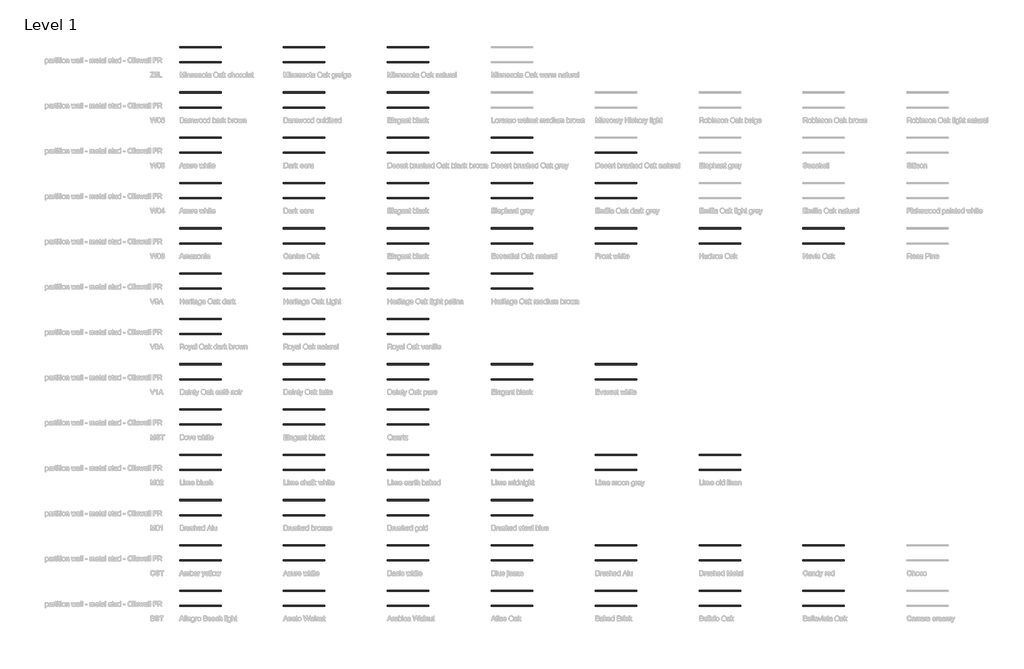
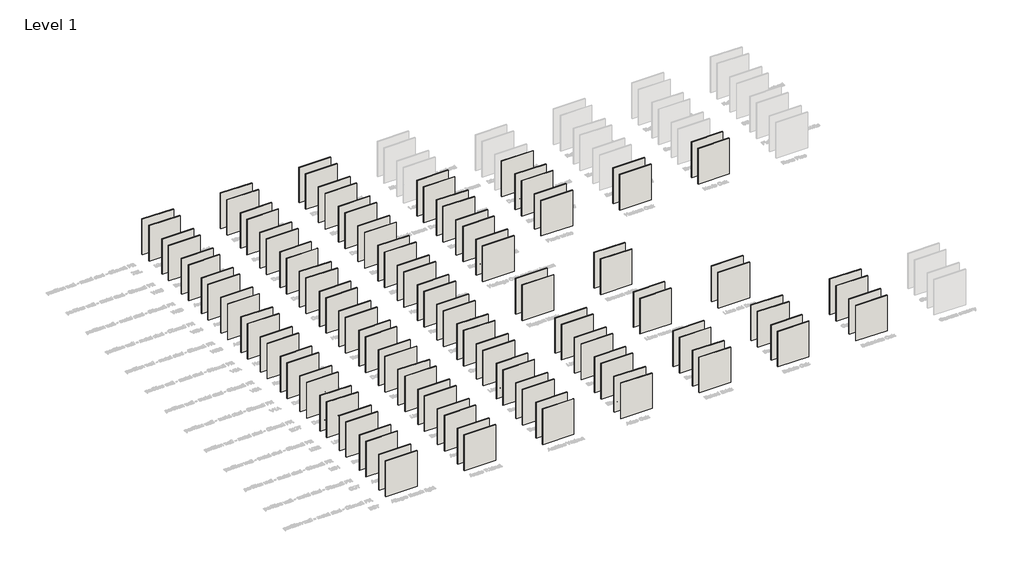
# One storey, part 1 of 99: 123 walls.
"""IFC4 building model written with IfcOpenShell, lengths in millimetres."""

from ifc_helpers import new_model, si_unit, origin, origin_with_axes, place, context, project, spatial, polyline, outline, extrude, element, save

model = new_model("IFC4")

# Units and contexts
model_context = context("Model", 3, world=origin())
ifc_project = project(units=[si_unit("LENGTHUNIT", "METRE", prefix="MILLI")], contexts=[model_context])

# Site, building, storey
site = spatial("IfcSite", under=ifc_project)
building = spatial("IfcBuilding", under=site)
storey = spatial("IfcBuildingStorey", under=building, Name="Level 1", Elevation=0.0)

# Walls
placement = place(None, origin())
element("IfcWall", 1, ObjectType="RSen_22_WA_partition wall - metal stud - Clicwall FR BST Allegro Beech light 2785x600x10 mm_Unilin", at=placement, inside=storey, context=model_context, shape_type="SweptSolid", body=[
    extrude(outline(polyline([(14020.8, 1179.2), (10668.0, 1179.2), (10668.0, 1259.2), (14020.8, 1259.2), (14020.8, 1179.2)])), origin_with_axes(), (0.0, 0.0, 1.0), 4000.0),
])
element("IfcWall", 2, ObjectType="RSen_22_WA_partition wall - metal stud - chipboard - Clicwall FR BST Allegro Beech light 2785x600x10 mm_Unilin", at=placement, inside=storey, context=model_context, shape_type="SweptSolid", body=[
    extrude(outline(polyline([(14020.8, 2392.4), (10668.0, 2392.4), (10668.0, 2484.4), (14020.8, 2484.4), (14020.8, 2392.4)])), origin_with_axes(), (0.0, 0.0, 1.0), 4000.0),
])
element("IfcWall", 3, ObjectType="RSen_22_WA_partition wall - metal stud - Clicwall FR BST Aneto Walnut 2785x600x10 mm_Unilin", at=placement, inside=storey, context=model_context, shape_type="SweptSolid", body=[
    extrude(outline(polyline([(22402.8, 1179.2), (19050.0, 1179.2), (19050.0, 1259.2), (22402.8, 1259.2), (22402.8, 1179.2)])), origin_with_axes(), (0.0, 0.0, 1.0), 4000.0),
])
element("IfcWall", 4, ObjectType="RSen_22_WA_partition wall - metal stud - chipboard - Clicwall FR BST Aneto Walnut 2785x600x10 mm_Unilin", at=placement, inside=storey, context=model_context, shape_type="SweptSolid", body=[
    extrude(outline(polyline([(22402.8, 2392.4), (19050.0, 2392.4), (19050.0, 2484.4), (22402.8, 2484.4), (22402.8, 2392.4)])), origin_with_axes(), (0.0, 0.0, 1.0), 4000.0),
])
element("IfcWall", 5, ObjectType="RSen_22_WA_partition wall - metal stud - Clicwall FR BST Arabica Walnut 2785x600x10 mm_Unilin", at=placement, inside=storey, context=model_context, shape_type="SweptSolid", body=[
    extrude(outline(polyline([(30784.8, 1179.2), (27432.0, 1179.2), (27432.0, 1259.2), (30784.8, 1259.2), (30784.8, 1179.2)])), origin_with_axes(), (0.0, 0.0, 1.0), 4000.0),
])
element("IfcWall", 6, ObjectType="RSen_22_WA_partition wall - metal stud - chipboard - Clicwall FR BST Arabica Walnut 2785x600x10 mm_Unilin", at=placement, inside=storey, context=model_context, shape_type="SweptSolid", body=[
    extrude(outline(polyline([(30784.8, 2392.4), (27432.0, 2392.4), (27432.0, 2484.4), (30784.8, 2484.4), (30784.8, 2392.4)])), origin_with_axes(), (0.0, 0.0, 1.0), 4000.0),
])
element("IfcWall", 7, ObjectType="RSen_22_WA_partition wall - metal stud - Clicwall FR BST Atlas Oak  2785x600x10 mm_Unilin", at=placement, inside=storey, context=model_context, shape_type="SweptSolid", body=[
    extrude(outline(polyline([(39166.8, 1179.2), (35814.0, 1179.2), (35814.0, 1259.2), (39166.8, 1259.2), (39166.8, 1179.2)])), origin_with_axes(), (0.0, 0.0, 1.0), 4000.0),
])
element("IfcWall", 8, ObjectType="RSen_22_WA_partition wall - metal stud - chipboard - Clicwall FR BST Atlas Oak  2785x600x10 mm_Unilin", at=placement, inside=storey, context=model_context, shape_type="SweptSolid", body=[
    extrude(outline(polyline([(39166.8, 2392.4), (35814.0, 2392.4), (35814.0, 2484.4), (39166.8, 2484.4), (39166.8, 2392.4)])), origin_with_axes(), (0.0, 0.0, 1.0), 4000.0),
])
element("IfcWall", 9, ObjectType="RSen_22_WA_partition wall - metal stud - Clicwall FR BST Baked Brick 2785x600x10 mm_Unilin", at=placement, inside=storey, context=model_context, shape_type="SweptSolid", body=[
    extrude(outline(polyline([(47548.8, 1179.2), (44196.0, 1179.2), (44196.0, 1259.2), (47548.8, 1259.2), (47548.8, 1179.2)])), origin_with_axes(), (0.0, 0.0, 1.0), 4000.0),
])
element("IfcWall", 10, ObjectType="RSen_22_WA_partition wall - metal stud - chipboard - Clicwall FR BST Baked Brick 2785x600x10 mm_Unilin", at=placement, inside=storey, context=model_context, shape_type="SweptSolid", body=[
    extrude(outline(polyline([(47548.8, 2392.4), (44196.0, 2392.4), (44196.0, 2484.4), (47548.8, 2484.4), (47548.8, 2392.4)])), origin_with_axes(), (0.0, 0.0, 1.0), 4000.0),
])
element("IfcWall", 11, ObjectType="RSen_22_WA_partition wall - metal stud - Clicwall FR BST Belisio Oak 2785x600x10 mm_Unilin", at=placement, inside=storey, context=model_context, shape_type="SweptSolid", body=[
    extrude(outline(polyline([(55930.8, 1179.2), (52578.0, 1179.2), (52578.0, 1259.2), (55930.8, 1259.2), (55930.8, 1179.2)])), origin_with_axes(), (0.0, 0.0, 1.0), 4000.0),
])
element("IfcWall", 12, ObjectType="RSen_22_WA_partition wall - metal stud - chipboard - Clicwall FR BST Belisio Oak 2785x600x10 mm_Unilin", at=placement, inside=storey, context=model_context, shape_type="SweptSolid", body=[
    extrude(outline(polyline([(55930.8, 2392.4), (52578.0, 2392.4), (52578.0, 2484.4), (55930.8, 2484.4), (55930.8, 2392.4)])), origin_with_axes(), (0.0, 0.0, 1.0), 4000.0),
])
element("IfcWall", 13, ObjectType="RSen_22_WA_partition wall - metal stud - Clicwall FR BST Bellavista Oak 2785x600x10 mm_Unilin", at=placement, inside=storey, context=model_context, shape_type="SweptSolid", body=[
    extrude(outline(polyline([(64312.8, 1179.2), (60960.0, 1179.2), (60960.0, 1259.2), (64312.8, 1259.2), (64312.8, 1179.2)])), origin_with_axes(), (0.0, 0.0, 1.0), 4000.0),
])
element("IfcWall", 14, ObjectType="RSen_22_WA_partition wall - metal stud - chipboard - Clicwall FR BST Bellavista Oak 2785x600x10 mm_Unilin", at=placement, inside=storey, context=model_context, shape_type="SweptSolid", body=[
    extrude(outline(polyline([(64312.8, 2392.4), (60960.0, 2392.4), (60960.0, 2484.4), (64312.8, 2484.4), (64312.8, 2392.4)])), origin_with_axes(), (0.0, 0.0, 1.0), 4000.0),
])
element("IfcWall", 15, ObjectType="RSen_22_WA_partition wall - metal stud - Clicwall FR CST Amber yellow 2785x600x10 mm_Unilin", at=placement, inside=storey, context=model_context, shape_type="SweptSolid", body=[
    extrude(outline(polyline([(14020.8, 4836.8), (10668.0, 4836.8), (10668.0, 4916.8), (14020.8, 4916.8), (14020.8, 4836.8)])), origin_with_axes(), (0.0, 0.0, 1.0), 4000.0),
])
element("IfcWall", 16, ObjectType="RSen_22_WA_partition wall - metal stud - chipboard - Clicwall FR CST Amber yellow 2785x600x10 mm_Unilin", at=placement, inside=storey, context=model_context, shape_type="SweptSolid", body=[
    extrude(outline(polyline([(14020.8, 6050.0), (10668.0, 6050.0), (10668.0, 6142.0), (14020.8, 6142.0), (14020.8, 6050.0)])), origin_with_axes(), (0.0, 0.0, 1.0), 4000.0),
])
element("IfcWall", 17, ObjectType="RSen_22_WA_partition wall - metal stud - Clicwall FR CST Azure white 2785x600x10 mm_Unilin", at=placement, inside=storey, context=model_context, shape_type="SweptSolid", body=[
    extrude(outline(polyline([(22402.8, 4836.8), (19050.0, 4836.8), (19050.0, 4916.8), (22402.8, 4916.8), (22402.8, 4836.8)])), origin_with_axes(), (0.0, 0.0, 1.0), 4000.0),
])
element("IfcWall", 18, ObjectType="RSen_22_WA_partition wall - metal stud - chipboard - Clicwall FR CST Azure white 2785x600x10 mm_Unilin", at=placement, inside=storey, context=model_context, shape_type="SweptSolid", body=[
    extrude(outline(polyline([(22402.8, 6050.0), (19050.0, 6050.0), (19050.0, 6142.0), (22402.8, 6142.0), (22402.8, 6050.0)])), origin_with_axes(), (0.0, 0.0, 1.0), 4000.0),
])
element("IfcWall", 19, ObjectType="RSen_22_WA_partition wall - metal stud - Clicwall FR CST Basic white 2785x600x10 mm_Unilin", at=placement, inside=storey, context=model_context, shape_type="SweptSolid", body=[
    extrude(outline(polyline([(30784.8, 4836.8), (27432.0, 4836.8), (27432.0, 4916.8), (30784.8, 4916.8), (30784.8, 4836.8)])), origin_with_axes(), (0.0, 0.0, 1.0), 4000.0),
])
element("IfcWall", 20, ObjectType="RSen_22_WA_partition wall - metal stud - chipboard - Clicwall FR CST Basic white 2785x600x10 mm_Unilin", at=placement, inside=storey, context=model_context, shape_type="SweptSolid", body=[
    extrude(outline(polyline([(30784.8, 6050.0), (27432.0, 6050.0), (27432.0, 6142.0), (30784.8, 6142.0), (30784.8, 6050.0)])), origin_with_axes(), (0.0, 0.0, 1.0), 4000.0),
])
element("IfcWall", 21, ObjectType="RSen_22_WA_partition wall - metal stud - Clicwall FR CST Blue jeans 2785x600x10 mm_Unilin", at=placement, inside=storey, context=model_context, shape_type="SweptSolid", body=[
    extrude(outline(polyline([(39166.8, 4836.8), (35814.0, 4836.8), (35814.0, 4916.8), (39166.8, 4916.8), (39166.8, 4836.8)])), origin_with_axes(), (0.0, 0.0, 1.0), 4000.0),
])
element("IfcWall", 22, ObjectType="RSen_22_WA_partition wall - metal stud - chipboard - Clicwall FR CST Blue jeans 2785x600x10 mm_Unilin", at=placement, inside=storey, context=model_context, shape_type="SweptSolid", body=[
    extrude(outline(polyline([(39166.8, 6050.0), (35814.0, 6050.0), (35814.0, 6142.0), (39166.8, 6142.0), (39166.8, 6050.0)])), origin_with_axes(), (0.0, 0.0, 1.0), 4000.0),
])
element("IfcWall", 23, ObjectType="RSen_22_WA_partition wall - metal stud - Clicwall FR CST Brushed Alu 2785x600x10 mm_Unilin", at=placement, inside=storey, context=model_context, shape_type="SweptSolid", body=[
    extrude(outline(polyline([(47548.8, 4836.8), (44196.0, 4836.8), (44196.0, 4916.8), (47548.8, 4916.8), (47548.8, 4836.8)])), origin_with_axes(), (0.0, 0.0, 1.0), 4000.0),
])
element("IfcWall", 24, ObjectType="RSen_22_WA_partition wall - metal stud - chipboard - Clicwall FR CST Brushed Alu 2785x600x10 mm_Unilin", at=placement, inside=storey, context=model_context, shape_type="SweptSolid", body=[
    extrude(outline(polyline([(47548.8, 6050.0), (44196.0, 6050.0), (44196.0, 6142.0), (47548.8, 6142.0), (47548.8, 6050.0)])), origin_with_axes(), (0.0, 0.0, 1.0), 4000.0),
])
element("IfcWall", 25, ObjectType="RSen_22_WA_partition wall - metal stud - Clicwall FR CST Brushed Metal 2785x600x10 mm_Unilin", at=placement, inside=storey, context=model_context, shape_type="SweptSolid", body=[
    extrude(outline(polyline([(55930.8, 4836.8), (52578.0, 4836.8), (52578.0, 4916.8), (55930.8, 4916.8), (55930.8, 4836.8)])), origin_with_axes(), (0.0, 0.0, 1.0), 4000.0),
])
element("IfcWall", 26, ObjectType="RSen_22_WA_partition wall - metal stud - chipboard - Clicwall FR CST Brushed Metal 2785x600x10 mm_Unilin", at=placement, inside=storey, context=model_context, shape_type="SweptSolid", body=[
    extrude(outline(polyline([(55930.8, 6050.0), (52578.0, 6050.0), (52578.0, 6142.0), (55930.8, 6142.0), (55930.8, 6050.0)])), origin_with_axes(), (0.0, 0.0, 1.0), 4000.0),
])
element("IfcWall", 27, ObjectType="RSen_22_WA_partition wall - metal stud - Clicwall FR CST Candy red 2785x600x10 mm_Unilin", at=placement, inside=storey, context=model_context, shape_type="SweptSolid", body=[
    extrude(outline(polyline([(64312.8, 4836.8), (60960.0, 4836.8), (60960.0, 4916.8), (64312.8, 4916.8), (64312.8, 4836.8)])), origin_with_axes(), (0.0, 0.0, 1.0), 4000.0),
])
element("IfcWall", 28, ObjectType="RSen_22_WA_partition wall - metal stud - chipboard - Clicwall FR CST Candy red 2785x600x10 mm_Unilin", at=placement, inside=storey, context=model_context, shape_type="SweptSolid", body=[
    extrude(outline(polyline([(64312.8, 6050.0), (60960.0, 6050.0), (60960.0, 6142.0), (64312.8, 6142.0), (64312.8, 6050.0)])), origin_with_axes(), (0.0, 0.0, 1.0), 4000.0),
])
element("IfcWall", 29, ObjectType="RSen_22_WA_partition wall - metal stud - Clicwall FR M01 Brushed Alu 2785x600x10 mm_Unilin", at=placement, inside=storey, context=model_context, shape_type="SweptSolid", body=[
    extrude(outline(polyline([(14020.8, 8494.4), (10668.0, 8494.4), (10668.0, 8574.4), (14020.8, 8574.4), (14020.8, 8494.4)])), origin_with_axes(), (0.0, 0.0, 1.0), 4000.0),
])
element("IfcWall", 30, ObjectType="RSen_22_WA_partition wall - metal stud - chipboard - Clicwall FR M01 Brushed Alu 2785x600x10 mm_Unilin", at=placement, inside=storey, context=model_context, shape_type="SweptSolid", body=[
    extrude(outline(polyline([(14020.8, 9707.6), (10668.0, 9707.6), (10668.0, 9799.6), (14020.8, 9799.6), (14020.8, 9707.6)])), origin_with_axes(), (0.0, 0.0, 1.0), 4000.0),
])
element("IfcWall", 31, ObjectType="RSen_22_WA_partition wall - metal stud - Clicwall FR M01 Brushed bronze 2785x600x10 mm_Unilin", at=placement, inside=storey, context=model_context, shape_type="SweptSolid", body=[
    extrude(outline(polyline([(22402.8, 8494.4), (19050.0, 8494.4), (19050.0, 8574.4), (22402.8, 8574.4), (22402.8, 8494.4)])), origin_with_axes(), (0.0, 0.0, 1.0), 4000.0),
])
element("IfcWall", 32, ObjectType="RSen_22_WA_partition wall - metal stud - chipboard - Clicwall FR M01 Brushed bronze 2785x600x10 mm_Unilin", at=placement, inside=storey, context=model_context, shape_type="SweptSolid", body=[
    extrude(outline(polyline([(22402.8, 9707.6), (19050.0, 9707.6), (19050.0, 9799.6), (22402.8, 9799.6), (22402.8, 9707.6)])), origin_with_axes(), (0.0, 0.0, 1.0), 4000.0),
])
element("IfcWall", 33, ObjectType="RSen_22_WA_partition wall - metal stud - Clicwall FR M01 Brushed gold 2785x600x10 mm_Unilin", at=placement, inside=storey, context=model_context, shape_type="SweptSolid", body=[
    extrude(outline(polyline([(30784.8, 8494.4), (27432.0, 8494.4), (27432.0, 8574.4), (30784.8, 8574.4), (30784.8, 8494.4)])), origin_with_axes(), (0.0, 0.0, 1.0), 4000.0),
])
element("IfcWall", 34, ObjectType="RSen_22_WA_partition wall - metal stud - chipboard - Clicwall FR M01 Brushed gold 2785x600x10 mm_Unilin", at=placement, inside=storey, context=model_context, shape_type="SweptSolid", body=[
    extrude(outline(polyline([(30784.8, 9707.6), (27432.0, 9707.6), (27432.0, 9799.6), (30784.8, 9799.6), (30784.8, 9707.6)])), origin_with_axes(), (0.0, 0.0, 1.0), 4000.0),
])
element("IfcWall", 35, ObjectType="RSen_22_WA_partition wall - metal stud - Clicwall FR M01 Brushed steel blue  2785x600x10 mm_Unilin", at=placement, inside=storey, context=model_context, shape_type="SweptSolid", body=[
    extrude(outline(polyline([(39166.8, 8494.4), (35814.0, 8494.4), (35814.0, 8574.4), (39166.8, 8574.4), (39166.8, 8494.4)])), origin_with_axes(), (0.0, 0.0, 1.0), 4000.0),
])
element("IfcWall", 36, ObjectType="RSen_22_WA_partition wall - metal stud - chipboard - Clicwall FR M01 Brushed steel blue  2785x600x10 mm_Unilin", at=placement, inside=storey, context=model_context, shape_type="SweptSolid", body=[
    extrude(outline(polyline([(39166.8, 9707.6), (35814.0, 9707.6), (35814.0, 9799.6), (39166.8, 9799.6), (39166.8, 9707.6)])), origin_with_axes(), (0.0, 0.0, 1.0), 4000.0),
])
element("IfcWall", 37, ObjectType="RSen_22_WA_partition wall - metal stud - Clicwall FR M02 Lime blush  2785x600x10 mm_Unilin", at=placement, inside=storey, context=model_context, shape_type="SweptSolid", body=[
    extrude(outline(polyline([(14020.8, 12152.0), (10668.0, 12152.0), (10668.0, 12232.0), (14020.8, 12232.0), (14020.8, 12152.0)])), origin_with_axes(), (0.0, 0.0, 1.0), 4000.0),
])
element("IfcWall", 38, ObjectType="RSen_22_WA_partition wall - metal stud - chipboard - Clicwall FR M02 Lime blush  2785x600x10 mm_Unilin", at=placement, inside=storey, context=model_context, shape_type="SweptSolid", body=[
    extrude(outline(polyline([(14020.8, 13365.2), (10668.0, 13365.2), (10668.0, 13457.2), (14020.8, 13457.2), (14020.8, 13365.2)])), origin_with_axes(), (0.0, 0.0, 1.0), 4000.0),
])
element("IfcWall", 39, ObjectType="RSen_22_WA_partition wall - metal stud - Clicwall FR M02 Lime chalk white  2785x600x10 mm_Unilin", at=placement, inside=storey, context=model_context, shape_type="SweptSolid", body=[
    extrude(outline(polyline([(22402.8, 12152.0), (19050.0, 12152.0), (19050.0, 12232.0), (22402.8, 12232.0), (22402.8, 12152.0)])), origin_with_axes(), (0.0, 0.0, 1.0), 4000.0),
])
element("IfcWall", 40, ObjectType="RSen_22_WA_partition wall - metal stud - chipboard - Clicwall FR M02 Lime chalk white  2785x600x10 mm_Unilin", at=placement, inside=storey, context=model_context, shape_type="SweptSolid", body=[
    extrude(outline(polyline([(22402.8, 13365.2), (19050.0, 13365.2), (19050.0, 13457.2), (22402.8, 13457.2), (22402.8, 13365.2)])), origin_with_axes(), (0.0, 0.0, 1.0), 4000.0),
])
element("IfcWall", 41, ObjectType="RSen_22_WA_partition wall - metal stud - Clicwall FR M02 Lime earth baked  2785x600x10 mm_Unilin", at=placement, inside=storey, context=model_context, shape_type="SweptSolid", body=[
    extrude(outline(polyline([(30784.8, 12152.0), (27432.0, 12152.0), (27432.0, 12232.0), (30784.8, 12232.0), (30784.8, 12152.0)])), origin_with_axes(), (0.0, 0.0, 1.0), 4000.0),
])
element("IfcWall", 42, ObjectType="RSen_22_WA_partition wall - metal stud - chipboard - Clicwall FR M02 Lime earth baked  2785x600x10 mm_Unilin", at=placement, inside=storey, context=model_context, shape_type="SweptSolid", body=[
    extrude(outline(polyline([(30784.8, 13365.2), (27432.0, 13365.2), (27432.0, 13457.2), (30784.8, 13457.2), (30784.8, 13365.2)])), origin_with_axes(), (0.0, 0.0, 1.0), 4000.0),
])
element("IfcWall", 43, ObjectType="RSen_22_WA_partition wall - metal stud - Clicwall FR M02 Lime midnight  2785x600x10 mm_Unilin", at=placement, inside=storey, context=model_context, shape_type="SweptSolid", body=[
    extrude(outline(polyline([(39166.8, 12152.0), (35814.0, 12152.0), (35814.0, 12232.0), (39166.8, 12232.0), (39166.8, 12152.0)])), origin_with_axes(), (0.0, 0.0, 1.0), 4000.0),
])
element("IfcWall", 44, ObjectType="RSen_22_WA_partition wall - metal stud - chipboard - Clicwall FR M02 Lime midnight  2785x600x10 mm_Unilin", at=placement, inside=storey, context=model_context, shape_type="SweptSolid", body=[
    extrude(outline(polyline([(39166.8, 13365.2), (35814.0, 13365.2), (35814.0, 13457.2), (39166.8, 13457.2), (39166.8, 13365.2)])), origin_with_axes(), (0.0, 0.0, 1.0), 4000.0),
])
element("IfcWall", 45, ObjectType="RSen_22_WA_partition wall - metal stud - Clicwall FR M02 Lime moon grey  2785x600x10 mm_Unilin", at=placement, inside=storey, context=model_context, shape_type="SweptSolid", body=[
    extrude(outline(polyline([(47548.8, 12152.0), (44196.0, 12152.0), (44196.0, 12232.0), (47548.8, 12232.0), (47548.8, 12152.0)])), origin_with_axes(), (0.0, 0.0, 1.0), 4000.0),
])
element("IfcWall", 46, ObjectType="RSen_22_WA_partition wall - metal stud - chipboard - Clicwall FR M02 Lime moon grey  2785x600x10 mm_Unilin", at=placement, inside=storey, context=model_context, shape_type="SweptSolid", body=[
    extrude(outline(polyline([(47548.8, 13365.2), (44196.0, 13365.2), (44196.0, 13457.2), (47548.8, 13457.2), (47548.8, 13365.2)])), origin_with_axes(), (0.0, 0.0, 1.0), 4000.0),
])
element("IfcWall", 47, ObjectType="RSen_22_WA_partition wall - metal stud - Clicwall FR M02 Lime old linen  2785x600x10 mm_Unilin", at=placement, inside=storey, context=model_context, shape_type="SweptSolid", body=[
    extrude(outline(polyline([(55930.8, 12152.0), (52578.0, 12152.0), (52578.0, 12232.0), (55930.8, 12232.0), (55930.8, 12152.0)])), origin_with_axes(), (0.0, 0.0, 1.0), 4000.0),
])
element("IfcWall", 48, ObjectType="RSen_22_WA_partition wall - metal stud - chipboard - Clicwall FR M02 Lime old linen  2785x600x10 mm_Unilin", at=placement, inside=storey, context=model_context, shape_type="SweptSolid", body=[
    extrude(outline(polyline([(55930.8, 13365.2), (52578.0, 13365.2), (52578.0, 13457.2), (55930.8, 13457.2), (55930.8, 13365.2)])), origin_with_axes(), (0.0, 0.0, 1.0), 4000.0),
])
element("IfcWall", 49, ObjectType="RSen_22_WA_partition wall - metal stud - Clicwall FR MST Dove white  2785x600x10 mm_Unilin", at=placement, inside=storey, context=model_context, shape_type="SweptSolid", body=[
    extrude(outline(polyline([(14020.8, 15809.6), (10668.0, 15809.6), (10668.0, 15889.6), (14020.8, 15889.6), (14020.8, 15809.6)])), origin_with_axes(), (0.0, 0.0, 1.0), 4000.0),
])
element("IfcWall", 50, ObjectType="RSen_22_WA_partition wall - metal stud - chipboard - Clicwall FR MST Dove white  2785x600x10 mm_Unilin", at=placement, inside=storey, context=model_context, shape_type="SweptSolid", body=[
    extrude(outline(polyline([(14020.8, 17022.8), (10668.0, 17022.8), (10668.0, 17114.8), (14020.8, 17114.8), (14020.8, 17022.8)])), origin_with_axes(), (0.0, 0.0, 1.0), 4000.0),
])
element("IfcWall", 51, ObjectType="RSen_22_WA_partition wall - metal stud - Clicwall FR MST Elegant black  2785x600x10 mm_Unilin", at=placement, inside=storey, context=model_context, shape_type="SweptSolid", body=[
    extrude(outline(polyline([(22402.8, 15809.6), (19050.0, 15809.6), (19050.0, 15889.6), (22402.8, 15889.6), (22402.8, 15809.6)])), origin_with_axes(), (0.0, 0.0, 1.0), 4000.0),
])
element("IfcWall", 52, ObjectType="RSen_22_WA_partition wall - metal stud - chipboard - Clicwall FR MST Elegant black  2785x600x10 mm_Unilin", at=placement, inside=storey, context=model_context, shape_type="SweptSolid", body=[
    extrude(outline(polyline([(22402.8, 17022.8), (19050.0, 17022.8), (19050.0, 17114.8), (22402.8, 17114.8), (22402.8, 17022.8)])), origin_with_axes(), (0.0, 0.0, 1.0), 4000.0),
])
element("IfcWall", 53, ObjectType="RSen_22_WA_partition wall - metal stud - Clicwall FR MST Quartz  2785x600x10 mm_Unilin", at=placement, inside=storey, context=model_context, shape_type="SweptSolid", body=[
    extrude(outline(polyline([(30784.8, 15809.6), (27432.0, 15809.6), (27432.0, 15889.6), (30784.8, 15889.6), (30784.8, 15809.6)])), origin_with_axes(), (0.0, 0.0, 1.0), 4000.0),
])
element("IfcWall", 54, ObjectType="RSen_22_WA_partition wall - metal stud - chipboard - Clicwall FR MST Quartz  2785x600x10 mm_Unilin", at=placement, inside=storey, context=model_context, shape_type="SweptSolid", body=[
    extrude(outline(polyline([(30784.8, 17022.8), (27432.0, 17022.8), (27432.0, 17114.8), (30784.8, 17114.8), (30784.8, 17022.8)])), origin_with_axes(), (0.0, 0.0, 1.0), 4000.0),
])
element("IfcWall", 55, ObjectType="RSen_22_WA_partition wall - metal stud - Clicwall FR V1A Dainty Oak café noir 2785x600x10 mm_Unilin", at=placement, inside=storey, context=model_context, shape_type="SweptSolid", body=[
    extrude(outline(polyline([(14020.8, 19467.2), (10668.0, 19467.2), (10668.0, 19547.2), (14020.8, 19547.2), (14020.8, 19467.2)])), origin_with_axes(), (0.0, 0.0, 1.0), 4000.0),
])
element("IfcWall", 56, ObjectType="RSen_22_WA_partition wall - metal stud - chipboard - Clicwall FR V1A Dainty Oak café noir 2785x600x10 mm_Unilin", at=placement, inside=storey, context=model_context, shape_type="SweptSolid", body=[
    extrude(outline(polyline([(14020.8, 20680.4), (10668.0, 20680.4), (10668.0, 20772.4), (14020.8, 20772.4), (14020.8, 20680.4)])), origin_with_axes(), (0.0, 0.0, 1.0), 4000.0),
])
element("IfcWall", 57, ObjectType="RSen_22_WA_partition wall - metal stud - Clicwall FR V1A Dainty Oak latte 2785x600x10 mm_Unilin", at=placement, inside=storey, context=model_context, shape_type="SweptSolid", body=[
    extrude(outline(polyline([(22402.8, 19467.2), (19050.0, 19467.2), (19050.0, 19547.2), (22402.8, 19547.2), (22402.8, 19467.2)])), origin_with_axes(), (0.0, 0.0, 1.0), 4000.0),
])
element("IfcWall", 58, ObjectType="RSen_22_WA_partition wall - metal stud - chipboard - Clicwall FR V1A Dainty Oak latte 2785x600x10 mm_Unilin", at=placement, inside=storey, context=model_context, shape_type="SweptSolid", body=[
    extrude(outline(polyline([(22402.8, 20680.4), (19050.0, 20680.4), (19050.0, 20772.4), (22402.8, 20772.4), (22402.8, 20680.4)])), origin_with_axes(), (0.0, 0.0, 1.0), 4000.0),
])
element("IfcWall", 59, ObjectType="RSen_22_WA_partition wall - metal stud - Clicwall FR V1A Dainty Oak pure 2785x600x10 mm_Unilin", at=placement, inside=storey, context=model_context, shape_type="SweptSolid", body=[
    extrude(outline(polyline([(30784.8, 19467.2), (27432.0, 19467.2), (27432.0, 19547.2), (30784.8, 19547.2), (30784.8, 19467.2)])), origin_with_axes(), (0.0, 0.0, 1.0), 4000.0),
])
element("IfcWall", 60, ObjectType="RSen_22_WA_partition wall - metal stud - chipboard - Clicwall FR V1A Dainty Oak pure 2785x600x10 mm_Unilin", at=placement, inside=storey, context=model_context, shape_type="SweptSolid", body=[
    extrude(outline(polyline([(30784.8, 20680.4), (27432.0, 20680.4), (27432.0, 20772.4), (30784.8, 20772.4), (30784.8, 20680.4)])), origin_with_axes(), (0.0, 0.0, 1.0), 4000.0),
])
element("IfcWall", 61, ObjectType="RSen_22_WA_partition wall - metal stud - Clicwall FR V1A Elegant black  2785x600x10 mm_Unilin", at=placement, inside=storey, context=model_context, shape_type="SweptSolid", body=[
    extrude(outline(polyline([(39166.8, 19467.2), (35814.0, 19467.2), (35814.0, 19547.2), (39166.8, 19547.2), (39166.8, 19467.2)])), origin_with_axes(), (0.0, 0.0, 1.0), 4000.0),
])
element("IfcWall", 62, ObjectType="RSen_22_WA_partition wall - metal stud - chipboard - Clicwall FR V1A Elegant black  2785x600x10 mm_Unilin", at=placement, inside=storey, context=model_context, shape_type="SweptSolid", body=[
    extrude(outline(polyline([(39166.8, 20680.4), (35814.0, 20680.4), (35814.0, 20772.4), (39166.8, 20772.4), (39166.8, 20680.4)])), origin_with_axes(), (0.0, 0.0, 1.0), 4000.0),
])
element("IfcWall", 63, ObjectType="RSen_22_WA_partition wall - metal stud - Clicwall FR V1A Everest white  2785x600x10 mm_Unilin", at=placement, inside=storey, context=model_context, shape_type="SweptSolid", body=[
    extrude(outline(polyline([(47548.8, 19467.2), (44196.0, 19467.2), (44196.0, 19547.2), (47548.8, 19547.2), (47548.8, 19467.2)])), origin_with_axes(), (0.0, 0.0, 1.0), 4000.0),
])
element("IfcWall", 64, ObjectType="RSen_22_WA_partition wall - metal stud - chipboard - Clicwall FR V1A Everest white  2785x600x10 mm_Unilin", at=placement, inside=storey, context=model_context, shape_type="SweptSolid", body=[
    extrude(outline(polyline([(47548.8, 20680.4), (44196.0, 20680.4), (44196.0, 20772.4), (47548.8, 20772.4), (47548.8, 20680.4)])), origin_with_axes(), (0.0, 0.0, 1.0), 4000.0),
])
element("IfcWall", 65, ObjectType="RSen_22_WA_partition wall - metal stud - Clicwall FR V8A Royal Oak dark brown 2785x600x10 mm_Unilin", at=placement, inside=storey, context=model_context, shape_type="SweptSolid", body=[
    extrude(outline(polyline([(14020.8, 23124.8), (10668.0, 23124.8), (10668.0, 23204.8), (14020.8, 23204.8), (14020.8, 23124.8)])), origin_with_axes(), (0.0, 0.0, 1.0), 4000.0),
])
element("IfcWall", 66, ObjectType="RSen_22_WA_partition wall - metal stud - chipboard - Clicwall FR V8A Royal Oak dark brown 2785x600x10 mm_Unilin", at=placement, inside=storey, context=model_context, shape_type="SweptSolid", body=[
    extrude(outline(polyline([(14020.8, 24338.0), (10668.0, 24338.0), (10668.0, 24430.0), (14020.8, 24430.0), (14020.8, 24338.0)])), origin_with_axes(), (0.0, 0.0, 1.0), 4000.0),
])
element("IfcWall", 67, ObjectType="RSen_22_WA_partition wall - metal stud - Clicwall FR V8A Royal Oak natural 2785x600x10 mm_Unilin", at=placement, inside=storey, context=model_context, shape_type="SweptSolid", body=[
    extrude(outline(polyline([(22402.8, 23124.8), (19050.0, 23124.8), (19050.0, 23204.8), (22402.8, 23204.8), (22402.8, 23124.8)])), origin_with_axes(), (0.0, 0.0, 1.0), 4000.0),
])
element("IfcWall", 68, ObjectType="RSen_22_WA_partition wall - metal stud - chipboard - Clicwall FR V8A Royal Oak natural 2785x600x10 mm_Unilin", at=placement, inside=storey, context=model_context, shape_type="SweptSolid", body=[
    extrude(outline(polyline([(22402.8, 24338.0), (19050.0, 24338.0), (19050.0, 24430.0), (22402.8, 24430.0), (22402.8, 24338.0)])), origin_with_axes(), (0.0, 0.0, 1.0), 4000.0),
])
element("IfcWall", 69, ObjectType="RSen_22_WA_partition wall - metal stud - Clicwall FR V8A Royal Oak vanille 2785x600x10 mm_Unilin", at=placement, inside=storey, context=model_context, shape_type="SweptSolid", body=[
    extrude(outline(polyline([(30784.8, 23124.8), (27432.0, 23124.8), (27432.0, 23204.8), (30784.8, 23204.8), (30784.8, 23124.8)])), origin_with_axes(), (0.0, 0.0, 1.0), 4000.0),
])
element("IfcWall", 70, ObjectType="RSen_22_WA_partition wall - metal stud - chipboard - Clicwall FR V8A Royal Oak vanille 2785x600x10 mm_Unilin", at=placement, inside=storey, context=model_context, shape_type="SweptSolid", body=[
    extrude(outline(polyline([(30784.8, 24338.0), (27432.0, 24338.0), (27432.0, 24430.0), (30784.8, 24430.0), (30784.8, 24338.0)])), origin_with_axes(), (0.0, 0.0, 1.0), 4000.0),
])
element("IfcWall", 71, ObjectType="RSen_22_WA_partition wall - metal stud - Clicwall FR V9A Heritage Oak dark 2785x600x10 mm_Unilin", at=placement, inside=storey, context=model_context, shape_type="SweptSolid", body=[
    extrude(outline(polyline([(14020.8, 26782.4), (10668.0, 26782.4), (10668.0, 26862.4), (14020.8, 26862.4), (14020.8, 26782.4)])), origin_with_axes(), (0.0, 0.0, 1.0), 4000.0),
])
element("IfcWall", 72, ObjectType="RSen_22_WA_partition wall - metal stud - chipboard - Clicwall FR V9A Heritage Oak dark 2785x600x10 mm_Unilin", at=placement, inside=storey, context=model_context, shape_type="SweptSolid", body=[
    extrude(outline(polyline([(14020.8, 27995.6), (10668.0, 27995.6), (10668.0, 28087.6), (14020.8, 28087.6), (14020.8, 27995.6)])), origin_with_axes(), (0.0, 0.0, 1.0), 4000.0),
])
element("IfcWall", 73, ObjectType="RSen_22_WA_partition wall - metal stud - Clicwall FR V9A Heritage Oak Light 2785x600x10 mm_Unilin", at=placement, inside=storey, context=model_context, shape_type="SweptSolid", body=[
    extrude(outline(polyline([(22402.8, 26782.4), (19050.0, 26782.4), (19050.0, 26862.4), (22402.8, 26862.4), (22402.8, 26782.4)])), origin_with_axes(), (0.0, 0.0, 1.0), 4000.0),
])
element("IfcWall", 74, ObjectType="RSen_22_WA_partition wall - metal stud - chipboard - Clicwall FR V9A Heritage Oak Light 2785x600x10 mm_Unilin", at=placement, inside=storey, context=model_context, shape_type="SweptSolid", body=[
    extrude(outline(polyline([(22402.8, 27995.6), (19050.0, 27995.6), (19050.0, 28087.6), (22402.8, 28087.6), (22402.8, 27995.6)])), origin_with_axes(), (0.0, 0.0, 1.0), 4000.0),
])
element("IfcWall", 75, ObjectType="RSen_22_WA_partition wall - metal stud - Clicwall FR V9A Heritage Oak light patina 2785x600x10 mm_Unilin", at=placement, inside=storey, context=model_context, shape_type="SweptSolid", body=[
    extrude(outline(polyline([(30784.8, 26782.4), (27432.0, 26782.4), (27432.0, 26862.4), (30784.8, 26862.4), (30784.8, 26782.4)])), origin_with_axes(), (0.0, 0.0, 1.0), 4000.0),
])
element("IfcWall", 76, ObjectType="RSen_22_WA_partition wall - metal stud - chipboard - Clicwall FR V9A Heritage Oak light patina 2785x600x10 mm_Unilin", at=placement, inside=storey, context=model_context, shape_type="SweptSolid", body=[
    extrude(outline(polyline([(30784.8, 27995.6), (27432.0, 27995.6), (27432.0, 28087.6), (30784.8, 28087.6), (30784.8, 27995.6)])), origin_with_axes(), (0.0, 0.0, 1.0), 4000.0),
])
element("IfcWall", 77, ObjectType="RSen_22_WA_partition wall - metal stud - Clicwall FR V9A Heritage Oak medium brown 2785x600x10 mm_Unilin", at=placement, inside=storey, context=model_context, shape_type="SweptSolid", body=[
    extrude(outline(polyline([(39166.8, 26782.4), (35814.0, 26782.4), (35814.0, 26862.4), (39166.8, 26862.4), (39166.8, 26782.4)])), origin_with_axes(), (0.0, 0.0, 1.0), 4000.0),
])
element("IfcWall", 78, ObjectType="RSen_22_WA_partition wall - metal stud - chipboard - Clicwall FR V9A Heritage Oak medium brown 2785x600x10 mm_Unilin", at=placement, inside=storey, context=model_context, shape_type="SweptSolid", body=[
    extrude(outline(polyline([(39166.8, 27995.6), (35814.0, 27995.6), (35814.0, 28087.6), (39166.8, 28087.6), (39166.8, 27995.6)])), origin_with_axes(), (0.0, 0.0, 1.0), 4000.0),
])
element("IfcWall", 79, ObjectType="RSen_22_WA_partition wall - metal stud - Clicwall FR W03 Amazonia 2785x600x10 mm_Unilin", at=placement, inside=storey, context=model_context, shape_type="SweptSolid", body=[
    extrude(outline(polyline([(14020.8, 30440.0), (10668.0, 30440.0), (10668.0, 30520.0), (14020.8, 30520.0), (14020.8, 30440.0)])), origin_with_axes(), (0.0, 0.0, 1.0), 4000.0),
])
element("IfcWall", 80, ObjectType="RSen_22_WA_partition wall - metal stud - chipboard - Clicwall FR W03 Amazonia 2785x600x10 mm_Unilin", at=placement, inside=storey, context=model_context, shape_type="SweptSolid", body=[
    extrude(outline(polyline([(14020.8, 31653.2), (10668.0, 31653.2), (10668.0, 31745.2), (14020.8, 31745.2), (14020.8, 31653.2)])), origin_with_axes(), (0.0, 0.0, 1.0), 4000.0),
])
element("IfcWall", 81, ObjectType="RSen_22_WA_partition wall - metal stud - Clicwall FR W03 Canice Oak 2785x600x10 mm_Unilin", at=placement, inside=storey, context=model_context, shape_type="SweptSolid", body=[
    extrude(outline(polyline([(22402.8, 30440.0), (19050.0, 30440.0), (19050.0, 30520.0), (22402.8, 30520.0), (22402.8, 30440.0)])), origin_with_axes(), (0.0, 0.0, 1.0), 4000.0),
])
element("IfcWall", 82, ObjectType="RSen_22_WA_partition wall - metal stud - chipboard - Clicwall FR W03 Canice Oak 2785x600x10 mm_Unilin", at=placement, inside=storey, context=model_context, shape_type="SweptSolid", body=[
    extrude(outline(polyline([(22402.8, 31653.2), (19050.0, 31653.2), (19050.0, 31745.2), (22402.8, 31745.2), (22402.8, 31653.2)])), origin_with_axes(), (0.0, 0.0, 1.0), 4000.0),
])
element("IfcWall", 83, ObjectType="RSen_22_WA_partition wall - metal stud - Clicwall FR W03 Elegant black 2785x600x10 mm_Unilin", at=placement, inside=storey, context=model_context, shape_type="SweptSolid", body=[
    extrude(outline(polyline([(30784.8, 30440.0), (27432.0, 30440.0), (27432.0, 30520.0), (30784.8, 30520.0), (30784.8, 30440.0)])), origin_with_axes(), (0.0, 0.0, 1.0), 4000.0),
])
element("IfcWall", 84, ObjectType="RSen_22_WA_partition wall - metal stud - chipboard - Clicwall FR W03 Elegant black 2785x600x10 mm_Unilin", at=placement, inside=storey, context=model_context, shape_type="SweptSolid", body=[
    extrude(outline(polyline([(30784.8, 31653.2), (27432.0, 31653.2), (27432.0, 31745.2), (30784.8, 31745.2), (30784.8, 31653.2)])), origin_with_axes(), (0.0, 0.0, 1.0), 4000.0),
])
element("IfcWall", 85, ObjectType="RSen_22_WA_partition wall - metal stud - Clicwall FR W03 Essential Oak natural 2785x600x10 mm_Unilin", at=placement, inside=storey, context=model_context, shape_type="SweptSolid", body=[
    extrude(outline(polyline([(39166.8, 30440.0), (35814.0, 30440.0), (35814.0, 30520.0), (39166.8, 30520.0), (39166.8, 30440.0)])), origin_with_axes(), (0.0, 0.0, 1.0), 4000.0),
])
element("IfcWall", 86, ObjectType="RSen_22_WA_partition wall - metal stud - chipboard - Clicwall FR W03 Essential Oak natural 2785x600x10 mm_Unilin", at=placement, inside=storey, context=model_context, shape_type="SweptSolid", body=[
    extrude(outline(polyline([(39166.8, 31653.2), (35814.0, 31653.2), (35814.0, 31745.2), (39166.8, 31745.2), (39166.8, 31653.2)])), origin_with_axes(), (0.0, 0.0, 1.0), 4000.0),
])
element("IfcWall", 87, ObjectType="RSen_22_WA_partition wall - metal stud - Clicwall FR W03 Front white 2785x600x10 mm_Unilin", at=placement, inside=storey, context=model_context, shape_type="SweptSolid", body=[
    extrude(outline(polyline([(47548.8, 30440.0), (44196.0, 30440.0), (44196.0, 30520.0), (47548.8, 30520.0), (47548.8, 30440.0)])), origin_with_axes(), (0.0, 0.0, 1.0), 4000.0),
])
element("IfcWall", 88, ObjectType="RSen_22_WA_partition wall - metal stud - chipboard - Clicwall FR W03 Front white 2785x600x10 mm_Unilin", at=placement, inside=storey, context=model_context, shape_type="SweptSolid", body=[
    extrude(outline(polyline([(47548.8, 31653.2), (44196.0, 31653.2), (44196.0, 31745.2), (47548.8, 31745.2), (47548.8, 31653.2)])), origin_with_axes(), (0.0, 0.0, 1.0), 4000.0),
])
element("IfcWall", 89, ObjectType="RSen_22_WA_partition wall - metal stud - Clicwall FR W03 Hudson Oak 2785x600x10 mm_Unilin", at=placement, inside=storey, context=model_context, shape_type="SweptSolid", body=[
    extrude(outline(polyline([(55930.8, 30440.0), (52578.0, 30440.0), (52578.0, 30520.0), (55930.8, 30520.0), (55930.8, 30440.0)])), origin_with_axes(), (0.0, 0.0, 1.0), 4000.0),
])
element("IfcWall", 90, ObjectType="RSen_22_WA_partition wall - metal stud - chipboard - Clicwall FR W03 Hudson Oak 2785x600x10 mm_Unilin", at=placement, inside=storey, context=model_context, shape_type="SweptSolid", body=[
    extrude(outline(polyline([(55930.8, 31653.2), (52578.0, 31653.2), (52578.0, 31745.2), (55930.8, 31745.2), (55930.8, 31653.2)])), origin_with_axes(), (0.0, 0.0, 1.0), 4000.0),
])
element("IfcWall", 91, ObjectType="RSen_22_WA_partition wall - metal stud - Clicwall FR W03 Nevis Oak 2785x600x10 mm_Unilin", at=placement, inside=storey, context=model_context, shape_type="SweptSolid", body=[
    extrude(outline(polyline([(64312.8, 30440.0), (60960.0, 30440.0), (60960.0, 30520.0), (64312.8, 30520.0), (64312.8, 30440.0)])), origin_with_axes(), (0.0, 0.0, 1.0), 4000.0),
])
element("IfcWall", 92, ObjectType="RSen_22_WA_partition wall - metal stud - chipboard - Clicwall FR W03 Nevis Oak 2785x600x10 mm_Unilin", at=placement, inside=storey, context=model_context, shape_type="SweptSolid", body=[
    extrude(outline(polyline([(64312.8, 31653.2), (60960.0, 31653.2), (60960.0, 31745.2), (64312.8, 31745.2), (64312.8, 31653.2)])), origin_with_axes(), (0.0, 0.0, 1.0), 4000.0),
])
element("IfcWall", 93, ObjectType="RSen_22_WA_partition wall - metal stud - Clicwall FR W04 Azure white 2785x600x10 mm_Unilin", at=placement, inside=storey, context=model_context, shape_type="SweptSolid", body=[
    extrude(outline(polyline([(14020.8, 34097.6), (10668.0, 34097.6), (10668.0, 34177.6), (14020.8, 34177.6), (14020.8, 34097.6)])), origin_with_axes(), (0.0, 0.0, 1.0), 4000.0),
])
element("IfcWall", 94, ObjectType="RSen_22_WA_partition wall - metal stud - chipboard - Clicwall FR W04 Azure white 2785x600x10 mm_Unilin", at=placement, inside=storey, context=model_context, shape_type="SweptSolid", body=[
    extrude(outline(polyline([(14020.8, 35310.8), (10668.0, 35310.8), (10668.0, 35402.8), (14020.8, 35402.8), (14020.8, 35310.8)])), origin_with_axes(), (0.0, 0.0, 1.0), 4000.0),
])
element("IfcWall", 95, ObjectType="RSen_22_WA_partition wall - metal stud - Clicwall FR W04 Dark ecru 2785x600x10 mm_Unilin", at=placement, inside=storey, context=model_context, shape_type="SweptSolid", body=[
    extrude(outline(polyline([(22402.8, 34097.6), (19050.0, 34097.6), (19050.0, 34177.6), (22402.8, 34177.6), (22402.8, 34097.6)])), origin_with_axes(), (0.0, 0.0, 1.0), 4000.0),
])
element("IfcWall", 96, ObjectType="RSen_22_WA_partition wall - metal stud - chipboard - Clicwall FR W04 Dark ecru 2785x600x10 mm_Unilin", at=placement, inside=storey, context=model_context, shape_type="SweptSolid", body=[
    extrude(outline(polyline([(22402.8, 35310.8), (19050.0, 35310.8), (19050.0, 35402.8), (22402.8, 35402.8), (22402.8, 35310.8)])), origin_with_axes(), (0.0, 0.0, 1.0), 4000.0),
])
element("IfcWall", 97, ObjectType="RSen_22_WA_partition wall - metal stud - Clicwall FR W04 Elegant black 2785x600x10 mm_Unilin", at=placement, inside=storey, context=model_context, shape_type="SweptSolid", body=[
    extrude(outline(polyline([(30784.8, 34097.6), (27432.0, 34097.6), (27432.0, 34177.6), (30784.8, 34177.6), (30784.8, 34097.6)])), origin_with_axes(), (0.0, 0.0, 1.0), 4000.0),
])
element("IfcWall", 98, ObjectType="RSen_22_WA_partition wall - metal stud - chipboard - Clicwall FR W04 Elegant black 2785x600x10 mm_Unilin", at=placement, inside=storey, context=model_context, shape_type="SweptSolid", body=[
    extrude(outline(polyline([(30784.8, 35310.8), (27432.0, 35310.8), (27432.0, 35402.8), (30784.8, 35402.8), (30784.8, 35310.8)])), origin_with_axes(), (0.0, 0.0, 1.0), 4000.0),
])
element("IfcWall", 99, ObjectType="RSen_22_WA_partition wall - metal stud - Clicwall FR W04 Elephant grey 2785x600x10 mm_Unilin", at=placement, inside=storey, context=model_context, shape_type="SweptSolid", body=[
    extrude(outline(polyline([(39166.8, 34097.6), (35814.0, 34097.6), (35814.0, 34177.6), (39166.8, 34177.6), (39166.8, 34097.6)])), origin_with_axes(), (0.0, 0.0, 1.0), 4000.0),
])
element("IfcWall", 100, ObjectType="RSen_22_WA_partition wall - metal stud - chipboard - Clicwall FR W04 Elephant grey 2785x600x10 mm_Unilin", at=placement, inside=storey, context=model_context, shape_type="SweptSolid", body=[
    extrude(outline(polyline([(39166.8, 35310.8), (35814.0, 35310.8), (35814.0, 35402.8), (39166.8, 35402.8), (39166.8, 35310.8)])), origin_with_axes(), (0.0, 0.0, 1.0), 4000.0),
])
element("IfcWall", 101, ObjectType="RSen_22_WA_partition wall - metal stud - Clicwall FR W04 Emilia Oak dark grey 2785x600x10 mm_Unilin", at=placement, inside=storey, context=model_context, shape_type="SweptSolid", body=[
    extrude(outline(polyline([(47548.8, 34097.6), (44196.0, 34097.6), (44196.0, 34177.6), (47548.8, 34177.6), (47548.8, 34097.6)])), origin_with_axes(), (0.0, 0.0, 1.0), 4000.0),
])
element("IfcWall", 102, ObjectType="RSen_22_WA_partition wall - metal stud - chipboard - Clicwall FR W04 Emilia Oak dark grey 2785x600x10 mm_Unilin", at=placement, inside=storey, context=model_context, shape_type="SweptSolid", body=[
    extrude(outline(polyline([(47548.8, 35310.8), (44196.0, 35310.8), (44196.0, 35402.8), (47548.8, 35402.8), (47548.8, 35310.8)])), origin_with_axes(), (0.0, 0.0, 1.0), 4000.0),
])
element("IfcWall", 103, ObjectType="RSen_22_WA_partition wall - metal stud - Clicwall FR W05 Azure white 2785x600x10 mm_Unilin", at=placement, inside=storey, context=model_context, shape_type="SweptSolid", body=[
    extrude(outline(polyline([(14020.8, 37755.2), (10668.0, 37755.2), (10668.0, 37835.2), (14020.8, 37835.2), (14020.8, 37755.2)])), origin_with_axes(), (0.0, 0.0, 1.0), 4000.0),
])
element("IfcWall", 104, ObjectType="RSen_22_WA_partition wall - metal stud - chipboard - Clicwall FR W05 Azure white 2785x600x10 mm_Unilin", at=placement, inside=storey, context=model_context, shape_type="SweptSolid", body=[
    extrude(outline(polyline([(14020.8, 38968.4), (10668.0, 38968.4), (10668.0, 39060.4), (14020.8, 39060.4), (14020.8, 38968.4)])), origin_with_axes(), (0.0, 0.0, 1.0), 4000.0),
])
element("IfcWall", 105, ObjectType="RSen_22_WA_partition wall - metal stud - Clicwall FR W05 Dark ecru 2785x600x10 mm_Unilin", at=placement, inside=storey, context=model_context, shape_type="SweptSolid", body=[
    extrude(outline(polyline([(22402.8, 37755.2), (19050.0, 37755.2), (19050.0, 37835.2), (22402.8, 37835.2), (22402.8, 37755.2)])), origin_with_axes(), (0.0, 0.0, 1.0), 4000.0),
])
element("IfcWall", 106, ObjectType="RSen_22_WA_partition wall - metal stud - chipboard - Clicwall FR W05 Dark ecru 2785x600x10 mm_Unilin", at=placement, inside=storey, context=model_context, shape_type="SweptSolid", body=[
    extrude(outline(polyline([(22402.8, 38968.4), (19050.0, 38968.4), (19050.0, 39060.4), (22402.8, 39060.4), (22402.8, 38968.4)])), origin_with_axes(), (0.0, 0.0, 1.0), 4000.0),
])
element("IfcWall", 107, ObjectType="RSen_22_WA_partition wall - metal stud - Clicwall FR W05 Desert brushed Oak black brown 2785x600x10 mm_Unilin", at=placement, inside=storey, context=model_context, shape_type="SweptSolid", body=[
    extrude(outline(polyline([(30784.8, 37755.2), (27432.0, 37755.2), (27432.0, 37835.2), (30784.8, 37835.2), (30784.8, 37755.2)])), origin_with_axes(), (0.0, 0.0, 1.0), 4000.0),
])
element("IfcWall", 108, ObjectType="RSen_22_WA_partition wall - metal stud - chipboard - Clicwall FR W05 Desert brushed Oak black brown 2785x600x10 mm_Unilin", at=placement, inside=storey, context=model_context, shape_type="SweptSolid", body=[
    extrude(outline(polyline([(30784.8, 38968.4), (27432.0, 38968.4), (27432.0, 39060.4), (30784.8, 39060.4), (30784.8, 38968.4)])), origin_with_axes(), (0.0, 0.0, 1.0), 4000.0),
])
element("IfcWall", 109, ObjectType="RSen_22_WA_partition wall - metal stud - Clicwall FR W05 Desert brushed Oak grey 2785x600x10 mm_Unilin", at=placement, inside=storey, context=model_context, shape_type="SweptSolid", body=[
    extrude(outline(polyline([(39166.8, 37755.2), (35814.0, 37755.2), (35814.0, 37835.2), (39166.8, 37835.2), (39166.8, 37755.2)])), origin_with_axes(), (0.0, 0.0, 1.0), 4000.0),
])
element("IfcWall", 110, ObjectType="RSen_22_WA_partition wall - metal stud - chipboard - Clicwall FR W05 Desert brushed Oak grey 2785x600x10 mm_Unilin", at=placement, inside=storey, context=model_context, shape_type="SweptSolid", body=[
    extrude(outline(polyline([(39166.8, 38968.4), (35814.0, 38968.4), (35814.0, 39060.4), (39166.8, 39060.4), (39166.8, 38968.4)])), origin_with_axes(), (0.0, 0.0, 1.0), 4000.0),
])
element("IfcWall", 111, ObjectType="RSen_22_WA_partition wall - metal stud - Clicwall FR W05 Desert brushed Oak natural 2785x600x10 mm_Unilin", at=placement, inside=storey, context=model_context, shape_type="SweptSolid", body=[
    extrude(outline(polyline([(47548.8, 37755.2), (44196.0, 37755.2), (44196.0, 37835.2), (47548.8, 37835.2), (47548.8, 37755.2)])), origin_with_axes(), (0.0, 0.0, 1.0), 4000.0),
])
element("IfcWall", 112, ObjectType="RSen_22_WA_partition wall - metal stud - Clicwall FR W06 Barnwood bark brown 2785x600x10 mm_Unilin", at=placement, inside=storey, context=model_context, shape_type="SweptSolid", body=[
    extrude(outline(polyline([(14020.8, 41412.8), (10668.0, 41412.8), (10668.0, 41492.8), (14020.8, 41492.8), (14020.8, 41412.8)])), origin_with_axes(), (0.0, 0.0, 1.0), 4000.0),
])
element("IfcWall", 113, ObjectType="RSen_22_WA_partition wall - metal stud - chipboard - Clicwall FR W06 Barnwood bark brown 2785x600x10 mm_Unilin", at=placement, inside=storey, context=model_context, shape_type="SweptSolid", body=[
    extrude(outline(polyline([(14020.8, 42626.0), (10668.0, 42626.0), (10668.0, 42718.0), (14020.8, 42718.0), (14020.8, 42626.0)])), origin_with_axes(), (0.0, 0.0, 1.0), 4000.0),
])
element("IfcWall", 114, ObjectType="RSen_22_WA_partition wall - metal stud - Clicwall FR W06 Barnwood oxidised 2785x600x10 mm_Unilin", at=placement, inside=storey, context=model_context, shape_type="SweptSolid", body=[
    extrude(outline(polyline([(22402.8, 41412.8), (19050.0, 41412.8), (19050.0, 41492.8), (22402.8, 41492.8), (22402.8, 41412.8)])), origin_with_axes(), (0.0, 0.0, 1.0), 4000.0),
])
element("IfcWall", 115, ObjectType="RSen_22_WA_partition wall - metal stud - chipboard - Clicwall FR W06 Barnwood oxidised 2785x600x10 mm_Unilin", at=placement, inside=storey, context=model_context, shape_type="SweptSolid", body=[
    extrude(outline(polyline([(22402.8, 42626.0), (19050.0, 42626.0), (19050.0, 42718.0), (22402.8, 42718.0), (22402.8, 42626.0)])), origin_with_axes(), (0.0, 0.0, 1.0), 4000.0),
])
element("IfcWall", 116, ObjectType="RSen_22_WA_partition wall - metal stud - Clicwall FR W06 Elegant black 2785x600x10 mm_Unilin", at=placement, inside=storey, context=model_context, shape_type="SweptSolid", body=[
    extrude(outline(polyline([(30784.8, 41412.8), (27432.0, 41412.8), (27432.0, 41492.8), (30784.8, 41492.8), (30784.8, 41412.8)])), origin_with_axes(), (0.0, 0.0, 1.0), 4000.0),
])
element("IfcWall", 117, ObjectType="RSen_22_WA_partition wall - metal stud - chipboard - Clicwall FR W06 Elegant black 2785x600x10 mm_Unilin", at=placement, inside=storey, context=model_context, shape_type="SweptSolid", body=[
    extrude(outline(polyline([(30784.8, 42626.0), (27432.0, 42626.0), (27432.0, 42718.0), (30784.8, 42718.0), (30784.8, 42626.0)])), origin_with_axes(), (0.0, 0.0, 1.0), 4000.0),
])
element("IfcWall", 118, ObjectType="RSen_22_WA_partition wall - metal stud - Clicwall FR Z5L Minnesota Oak chocolat 2785x600x10 mm_Unilin", at=placement, inside=storey, context=model_context, shape_type="SweptSolid", body=[
    extrude(outline(polyline([(14020.8, 45070.4), (10668.0, 45070.4), (10668.0, 45150.4), (14020.8, 45150.4), (14020.8, 45070.4)])), origin_with_axes(), (0.0, 0.0, 1.0), 4000.0),
])
element("IfcWall", 119, ObjectType="RSen_22_WA_partition wall - metal stud - chipboard - Clicwall FR Z5L Minnesota Oak chocolat 2785x600x10 mm_Unilin", at=placement, inside=storey, context=model_context, shape_type="SweptSolid", body=[
    extrude(outline(polyline([(14020.8, 46283.6), (10668.0, 46283.6), (10668.0, 46375.6), (14020.8, 46375.6), (14020.8, 46283.6)])), origin_with_axes(), (0.0, 0.0, 1.0), 4000.0),
])
element("IfcWall", 120, ObjectType="RSen_22_WA_partition wall - metal stud - Clicwall FR Z5L Minnesota Oak greige 2785x600x10 mm_Unilin", at=placement, inside=storey, context=model_context, shape_type="SweptSolid", body=[
    extrude(outline(polyline([(22402.8, 45070.4), (19050.0, 45070.4), (19050.0, 45150.4), (22402.8, 45150.4), (22402.8, 45070.4)])), origin_with_axes(), (0.0, 0.0, 1.0), 4000.0),
])
element("IfcWall", 121, ObjectType="RSen_22_WA_partition wall - metal stud - chipboard - Clicwall FR Z5L Minnesota Oak greige 2785x600x10 mm_Unilin", at=placement, inside=storey, context=model_context, shape_type="SweptSolid", body=[
    extrude(outline(polyline([(22402.8, 46283.6), (19050.0, 46283.6), (19050.0, 46375.6), (22402.8, 46375.6), (22402.8, 46283.6)])), origin_with_axes(), (0.0, 0.0, 1.0), 4000.0),
])
element("IfcWall", 122, ObjectType="RSen_22_WA_partition wall - metal stud - Clicwall FR Z5L Minnesota Oak natural 2785x600x10 mm_Unilin", at=placement, inside=storey, context=model_context, shape_type="SweptSolid", body=[
    extrude(outline(polyline([(30784.8, 45070.4), (27432.0, 45070.4), (27432.0, 45150.4), (30784.8, 45150.4), (30784.8, 45070.4)])), origin_with_axes(), (0.0, 0.0, 1.0), 4000.0),
])
element("IfcWall", 123, ObjectType="RSen_22_WA_partition wall - metal stud - chipboard - Clicwall FR Z5L Minnesota Oak natural 2785x600x10 mm_Unilin", at=placement, inside=storey, context=model_context, shape_type="SweptSolid", body=[
    extrude(outline(polyline([(30784.8, 46283.6), (27432.0, 46283.6), (27432.0, 46375.6), (30784.8, 46375.6), (30784.8, 46283.6)])), origin_with_axes(), (0.0, 0.0, 1.0), 4000.0),
])

save(model, "model.ifc")
